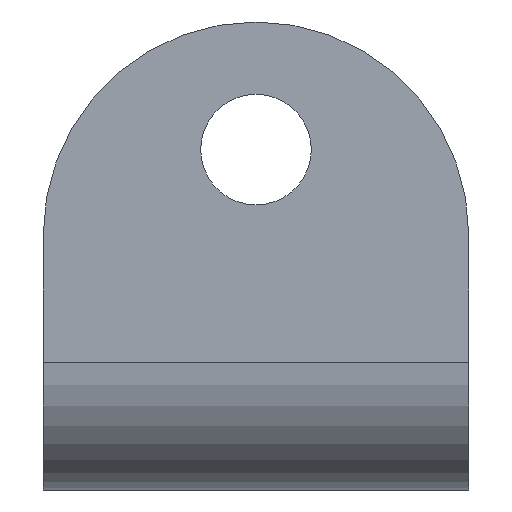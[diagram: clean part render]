
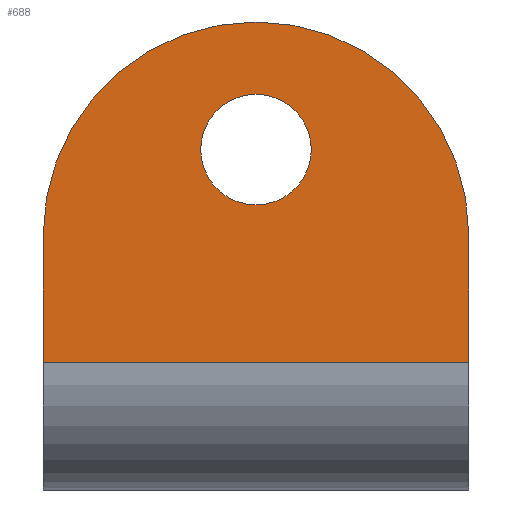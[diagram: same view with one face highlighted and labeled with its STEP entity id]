
A CAD part, front view. The second image highlights one B-rep face of the part: STEP entity #688.
In plain terms, the highlighted planar face has unit normal (0, -1, 0).
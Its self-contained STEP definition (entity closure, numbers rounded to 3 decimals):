
#8 = DIRECTION ( 'NONE',  ( 0., 0., 1. ) ) ;
#11 = DIRECTION ( 'NONE',  ( 0., 0., 1. ) ) ;
#14 = VERTEX_POINT ( 'NONE', #386 ) ;
#17 = EDGE_CURVE ( 'NONE', #264, #497, #963, .T. ) ;
#20 = DIRECTION ( 'NONE',  ( 0., 0., -1. ) ) ;
#30 = EDGE_LOOP ( 'NONE', ( #720, #570, #215, #201, #278 ) ) ;
#88 = LINE ( 'NONE', #394, #491 ) ;
#114 = CARTESIAN_POINT ( 'NONE',  ( 0., -11.6, 12. ) ) ;
#145 = CARTESIAN_POINT ( 'NONE',  ( -10., -11.6, 0. ) ) ;
#152 = DIRECTION ( 'NONE',  ( 0., 0., -1. ) ) ;
#165 = ORIENTED_EDGE ( 'NONE', *, *, #806, .T. ) ;
#166 = DIRECTION ( 'NONE',  ( 0., -1., 0. ) ) ;
#172 = FACE_OUTER_BOUND ( 'NONE', #30, .T. ) ;
#200 = AXIS2_PLACEMENT_3D ( 'NONE', #698, #640, #20 ) ;
#201 = ORIENTED_EDGE ( 'NONE', *, *, #728, .F. ) ;
#207 = CARTESIAN_POINT ( 'NONE',  ( 10., -11.6, 6. ) ) ;
#211 = AXIS2_PLACEMENT_3D ( 'NONE', #114, #338, #666 ) ;
#215 = ORIENTED_EDGE ( 'NONE', *, *, #778, .T. ) ;
#264 = VERTEX_POINT ( 'NONE', #658 ) ;
#278 = ORIENTED_EDGE ( 'NONE', *, *, #653, .F. ) ;
#338 = DIRECTION ( 'NONE',  ( 0., -1., 0. ) ) ;
#342 = CIRCLE ( 'NONE', #679, 2.6 ) ;
#371 = EDGE_CURVE ( 'NONE', #889, #902, #647, .T. ) ;
#386 = CARTESIAN_POINT ( 'NONE',  ( -10., -11.6, 6. ) ) ;
#394 = CARTESIAN_POINT ( 'NONE',  ( 10., -11.6, 6. ) ) ;
#436 = VECTOR ( 'NONE', #885, 1000. ) ;
#438 = CIRCLE ( 'NONE', #915, 10. ) ;
#442 = CARTESIAN_POINT ( 'NONE',  ( 0., -11.6, 22. ) ) ;
#450 = EDGE_LOOP ( 'NONE', ( #641, #165 ) ) ;
#476 = PLANE ( 'NONE',  #200 ) ;
#491 = VECTOR ( 'NONE', #700, 1000. ) ;
#497 = VERTEX_POINT ( 'NONE', #895 ) ;
#513 = DIRECTION ( 'NONE',  ( 0., 0., 1. ) ) ;
#526 = LINE ( 'NONE', #145, #436 ) ;
#570 = ORIENTED_EDGE ( 'NONE', *, *, #371, .T. ) ;
#573 = VECTOR ( 'NONE', #513, 1000. ) ;
#584 = CARTESIAN_POINT ( 'NONE',  ( 10., -11.6, 12. ) ) ;
#637 = AXIS2_PLACEMENT_3D ( 'NONE', #686, #919, #8 ) ;
#640 = DIRECTION ( 'NONE',  ( 0., -1., 0. ) ) ;
#641 = ORIENTED_EDGE ( 'NONE', *, *, #17, .T. ) ;
#647 = CIRCLE ( 'NONE', #211, 10. ) ;
#653 = EDGE_CURVE ( 'NONE', #909, #14, #88, .T. ) ;
#658 = CARTESIAN_POINT ( 'NONE',  ( 0., -11.6, 18.6 ) ) ;
#661 = LINE ( 'NONE', #961, #573 ) ;
#666 = DIRECTION ( 'NONE',  ( 0., 0., -1. ) ) ;
#669 = VERTEX_POINT ( 'NONE', #708 ) ;
#679 = AXIS2_PLACEMENT_3D ( 'NONE', #702, #832, #11 ) ;
#686 = CARTESIAN_POINT ( 'NONE',  ( 0., -11.6, 16. ) ) ;
#688 = ADVANCED_FACE ( 'NONE', ( #924, #172 ), #476, .T. ) ;
#698 = CARTESIAN_POINT ( 'NONE',  ( 10., -11.6, 0. ) ) ;
#700 = DIRECTION ( 'NONE',  ( -1., 0., 0. ) ) ;
#702 = CARTESIAN_POINT ( 'NONE',  ( 0., -11.6, 16. ) ) ;
#708 = CARTESIAN_POINT ( 'NONE',  ( -10., -11.6, 12. ) ) ;
#720 = ORIENTED_EDGE ( 'NONE', *, *, #920, .T. ) ;
#728 = EDGE_CURVE ( 'NONE', #14, #669, #526, .T. ) ;
#778 = EDGE_CURVE ( 'NONE', #902, #669, #438, .T. ) ;
#806 = EDGE_CURVE ( 'NONE', #497, #264, #342, .T. ) ;
#832 = DIRECTION ( 'NONE',  ( 0., 1., 0. ) ) ;
#837 = CARTESIAN_POINT ( 'NONE',  ( 0., -11.6, 12. ) ) ;
#885 = DIRECTION ( 'NONE',  ( 0., 0., 1. ) ) ;
#889 = VERTEX_POINT ( 'NONE', #584 ) ;
#895 = CARTESIAN_POINT ( 'NONE',  ( 0., -11.6, 13.4 ) ) ;
#902 = VERTEX_POINT ( 'NONE', #442 ) ;
#909 = VERTEX_POINT ( 'NONE', #207 ) ;
#915 = AXIS2_PLACEMENT_3D ( 'NONE', #837, #166, #152 ) ;
#919 = DIRECTION ( 'NONE',  ( 0., 1., 0. ) ) ;
#920 = EDGE_CURVE ( 'NONE', #909, #889, #661, .T. ) ;
#924 = FACE_BOUND ( 'NONE', #450, .T. ) ;
#961 = CARTESIAN_POINT ( 'NONE',  ( 10., -11.6, 0. ) ) ;
#963 = CIRCLE ( 'NONE', #637, 2.6 ) ;
